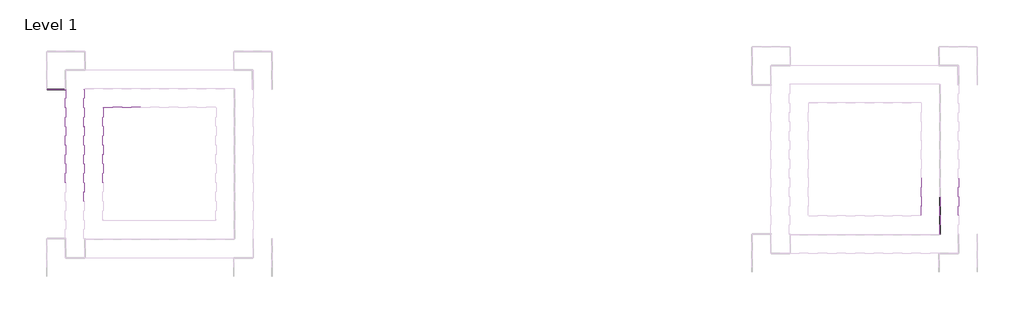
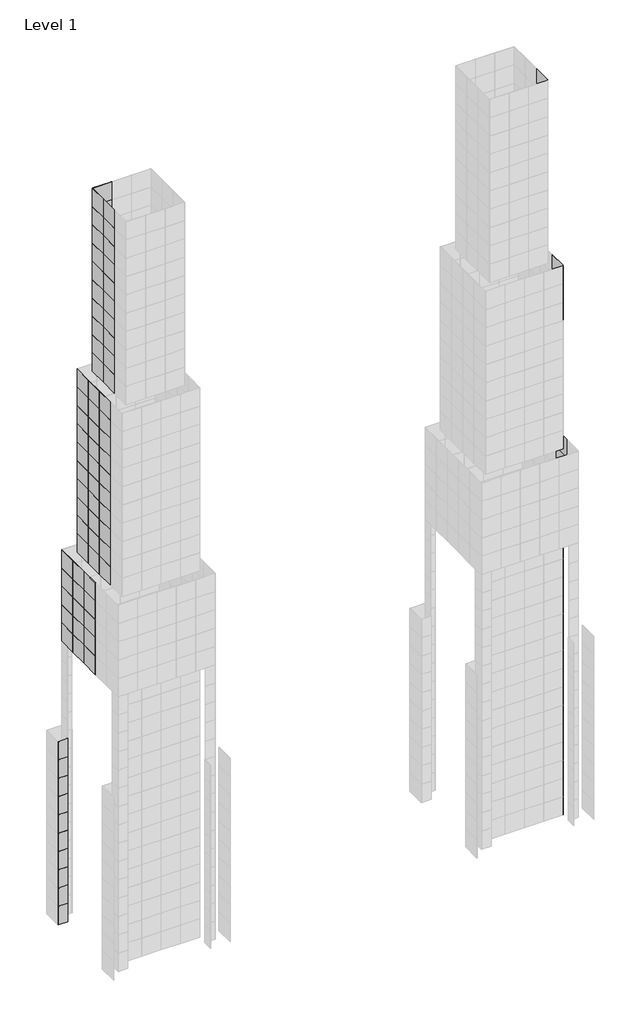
# One storey, part 7 of 15: 134 plates.
"""IFC4 building model written with IfcOpenShell, lengths in millimetres."""

from ifc_helpers import new_model, si_unit, origin, place, context, project, spatial, transform, mapped, element, save
from components import system_panel_glazed_9c75bc08, system_panel_glazed_0a0842ec, system_panel_glazed_aa64d645, system_panel_glazed_b248394d

model = new_model("IFC4")

# Units and contexts
model_context = context("Model", 3, world=origin())
ifc_project = project(units=[si_unit("LENGTHUNIT", "METRE", prefix="MILLI")], contexts=[model_context])

# Site, building, storey
site = spatial("IfcSite", under=ifc_project)
building = spatial("IfcBuilding", under=site)
storey = spatial("IfcBuildingStorey", under=building, Name="Level 1", Elevation=0.0)

# Plates
placement = place(None, origin())
system_panel_glazed_shape = system_panel_glazed_9c75bc08(model_context)
element("IfcPlate", 1, ObjectType="System Panel : Glazed", at=placement, inside=storey, context=model_context, shape_type="MappedRepresentation", body=[
    mapped(system_panel_glazed_shape, transform((-21601.4161695, 7973.9495511, 0.0), x_axis=(1.0, 0.0, 0.0), y_axis=(0.0, 1.0, 0.0), z_axis=(0.0, 0.0, 1.0))),
])
element("IfcPlate", 2, ObjectType="System Panel : Glazed", at=placement, inside=storey, context=model_context, shape_type="MappedRepresentation", body=[
    mapped(system_panel_glazed_shape, transform((-21601.4161695, 7973.9495511, 3048.0), x_axis=(1.0, 0.0, 0.0), y_axis=(0.0, 1.0, 0.0), z_axis=(0.0, 0.0, 1.0))),
])
element("IfcPlate", 3, ObjectType="System Panel : Glazed", at=placement, inside=storey, context=model_context, shape_type="MappedRepresentation", body=[
    mapped(system_panel_glazed_shape, transform((-21601.4161695, 7973.9495511, 6096.0), x_axis=(1.0, 0.0, 0.0), y_axis=(0.0, 1.0, 0.0), z_axis=(0.0, 0.0, 1.0))),
])
element("IfcPlate", 4, ObjectType="System Panel : Glazed", at=placement, inside=storey, context=model_context, shape_type="MappedRepresentation", body=[
    mapped(system_panel_glazed_shape, transform((-21601.4161695, 7973.9495511, 9144.0), x_axis=(1.0, 0.0, 0.0), y_axis=(0.0, 1.0, 0.0), z_axis=(0.0, 0.0, 1.0))),
])
element("IfcPlate", 5, ObjectType="System Panel : Glazed", at=placement, inside=storey, context=model_context, shape_type="MappedRepresentation", body=[
    mapped(system_panel_glazed_shape, transform((-21601.4161695, 7973.9495511, 12192.0), x_axis=(1.0, 0.0, 0.0), y_axis=(0.0, 1.0, 0.0), z_axis=(0.0, 0.0, 1.0))),
])
element("IfcPlate", 6, ObjectType="System Panel : Glazed", at=placement, inside=storey, context=model_context, shape_type="MappedRepresentation", body=[
    mapped(system_panel_glazed_shape, transform((-21601.4161695, 7973.9495511, 15240.0), x_axis=(1.0, 0.0, 0.0), y_axis=(0.0, 1.0, 0.0), z_axis=(0.0, 0.0, 1.0))),
])
element("IfcPlate", 7, ObjectType="System Panel : Glazed", at=placement, inside=storey, context=model_context, shape_type="MappedRepresentation", body=[
    mapped(system_panel_glazed_shape, transform((-21601.4161695, 7973.9495511, 18288.0), x_axis=(1.0, 0.0, 0.0), y_axis=(0.0, 1.0, 0.0), z_axis=(0.0, 0.0, 1.0))),
])
element("IfcPlate", 8, ObjectType="System Panel : Glazed", at=placement, inside=storey, context=model_context, shape_type="MappedRepresentation", body=[
    mapped(system_panel_glazed_shape, transform((-21601.4161695, 7973.9495511, 21336.0), x_axis=(1.0, 0.0, 0.0), y_axis=(0.0, 1.0, 0.0), z_axis=(0.0, 0.0, 1.0))),
])
element("IfcPlate", 9, ObjectType="System Panel : Glazed", at=placement, inside=storey, context=model_context, shape_type="MappedRepresentation", body=[
    mapped(system_panel_glazed_shape, transform((-21601.4161695, 7973.9495511, 24384.0), x_axis=(1.0, 0.0, 0.0), y_axis=(0.0, 1.0, 0.0), z_axis=(0.0, 0.0, 1.0))),
])
element("IfcPlate", 10, ObjectType="System Panel : Glazed", at=placement, inside=storey, context=model_context, shape_type="MappedRepresentation", body=[
    mapped(system_panel_glazed_shape, transform((-21601.4161695, 7973.9495511, 27432.0), x_axis=(1.0, 0.0, 0.0), y_axis=(0.0, 1.0, 0.0), z_axis=(0.0, 0.0, 1.0))),
])
system_panel_glazed_2_shape = system_panel_glazed_0a0842ec(model_context)
element("IfcPlate", 11, ObjectType="System Panel : Glazed", at=placement, inside=storey, context=model_context, shape_type="MappedRepresentation", body=[
    mapped(system_panel_glazed_2_shape, transform((-20839.4161695, 7973.9495511, 45720.0), x_axis=(0.0, -1.0, 0.0), y_axis=(1.0, 0.0, 0.0), z_axis=(0.0, 0.0, 1.0))),
])
element("IfcPlate", 12, ObjectType="System Panel : Glazed", at=placement, inside=storey, context=model_context, shape_type="MappedRepresentation", body=[
    mapped(system_panel_glazed_2_shape, transform((-20839.4161695, 7973.9495511, 45720.0), x_axis=(0.0, -1.0, 0.0), y_axis=(1.0, 0.0, 0.0), z_axis=(0.0, 0.0, 1.0))),
])
system_panel_glazed_3_shape = system_panel_glazed_aa64d645(model_context)
element("IfcPlate", 13, ObjectType="System Panel : Glazed", at=placement, inside=storey, context=model_context, shape_type="MappedRepresentation", body=[
    mapped(system_panel_glazed_3_shape, transform((-20839.4161695, 4925.9495511, 45720.0), x_axis=(0.0, -1.0, 0.0), y_axis=(1.0, 0.0, 0.0), z_axis=(0.0, 0.0, 1.0))),
])
element("IfcPlate", 14, ObjectType="System Panel : Glazed", at=placement, inside=storey, context=model_context, shape_type="MappedRepresentation", body=[
    mapped(system_panel_glazed_3_shape, transform((-20839.4161695, 1877.9495511, 45720.0), x_axis=(0.0, -1.0, 0.0), y_axis=(1.0, 0.0, 0.0), z_axis=(0.0, 0.0, 1.0))),
])
element("IfcPlate", 15, ObjectType="System Panel : Glazed", at=placement, inside=storey, context=model_context, shape_type="MappedRepresentation", body=[
    mapped(system_panel_glazed_3_shape, transform((-20839.4161695, 7973.9495511, 48768.0), x_axis=(0.0, -1.0, 0.0), y_axis=(1.0, 0.0, 0.0), z_axis=(0.0, 0.0, 1.0))),
])
element("IfcPlate", 16, ObjectType="System Panel : Glazed", at=placement, inside=storey, context=model_context, shape_type="MappedRepresentation", body=[
    mapped(system_panel_glazed_3_shape, transform((-20839.4161695, 4925.9495511, 48768.0), x_axis=(0.0, -1.0, 0.0), y_axis=(1.0, 0.0, 0.0), z_axis=(0.0, 0.0, 1.0))),
])
element("IfcPlate", 17, ObjectType="System Panel : Glazed", at=placement, inside=storey, context=model_context, shape_type="MappedRepresentation", body=[
    mapped(system_panel_glazed_3_shape, transform((-20839.4161695, 1877.9495511, 48768.0), x_axis=(0.0, -1.0, 0.0), y_axis=(1.0, 0.0, 0.0), z_axis=(0.0, 0.0, 1.0))),
])
element("IfcPlate", 18, ObjectType="System Panel : Glazed", at=placement, inside=storey, context=model_context, shape_type="MappedRepresentation", body=[
    mapped(system_panel_glazed_3_shape, transform((-20839.4161695, 7973.9495511, 51816.0), x_axis=(0.0, -1.0, 0.0), y_axis=(1.0, 0.0, 0.0), z_axis=(0.0, 0.0, 1.0))),
])
element("IfcPlate", 19, ObjectType="System Panel : Glazed", at=placement, inside=storey, context=model_context, shape_type="MappedRepresentation", body=[
    mapped(system_panel_glazed_3_shape, transform((-20839.4161695, 4925.9495511, 51816.0), x_axis=(0.0, -1.0, 0.0), y_axis=(1.0, 0.0, 0.0), z_axis=(0.0, 0.0, 1.0))),
])
element("IfcPlate", 20, ObjectType="System Panel : Glazed", at=placement, inside=storey, context=model_context, shape_type="MappedRepresentation", body=[
    mapped(system_panel_glazed_3_shape, transform((-20839.4161695, 1877.9495511, 51816.0), x_axis=(0.0, -1.0, 0.0), y_axis=(1.0, 0.0, 0.0), z_axis=(0.0, 0.0, 1.0))),
])
element("IfcPlate", 21, ObjectType="System Panel : Glazed", at=placement, inside=storey, context=model_context, shape_type="MappedRepresentation", body=[
    mapped(system_panel_glazed_3_shape, transform((-20839.4161695, 7973.9495511, 54864.0), x_axis=(0.0, -1.0, 0.0), y_axis=(1.0, 0.0, 0.0), z_axis=(0.0, 0.0, 1.0))),
])
element("IfcPlate", 22, ObjectType="System Panel : Glazed", at=placement, inside=storey, context=model_context, shape_type="MappedRepresentation", body=[
    mapped(system_panel_glazed_3_shape, transform((-20839.4161695, 4925.9495511, 54864.0), x_axis=(0.0, -1.0, 0.0), y_axis=(1.0, 0.0, 0.0), z_axis=(0.0, 0.0, 1.0))),
])
element("IfcPlate", 23, ObjectType="System Panel : Glazed", at=placement, inside=storey, context=model_context, shape_type="MappedRepresentation", body=[
    mapped(system_panel_glazed_3_shape, transform((-20839.4161695, 1877.9495511, 54864.0), x_axis=(0.0, -1.0, 0.0), y_axis=(1.0, 0.0, 0.0), z_axis=(0.0, 0.0, 1.0))),
])
element("IfcPlate", 24, ObjectType="System Panel : Glazed", at=placement, inside=storey, context=model_context, shape_type="MappedRepresentation", body=[
    mapped(system_panel_glazed_3_shape, transform((-20839.4161695, 7973.9495511, 57912.0), x_axis=(0.0, -1.0, 0.0), y_axis=(1.0, 0.0, 0.0), z_axis=(0.0, 0.0, 1.0))),
])
element("IfcPlate", 25, ObjectType="System Panel : Glazed", at=placement, inside=storey, context=model_context, shape_type="MappedRepresentation", body=[
    mapped(system_panel_glazed_3_shape, transform((-20839.4161695, 4925.9495511, 57912.0), x_axis=(0.0, -1.0, 0.0), y_axis=(1.0, 0.0, 0.0), z_axis=(0.0, 0.0, 1.0))),
])
element("IfcPlate", 26, ObjectType="System Panel : Glazed", at=placement, inside=storey, context=model_context, shape_type="MappedRepresentation", body=[
    mapped(system_panel_glazed_3_shape, transform((-20839.4161695, 1877.9495511, 57912.0), x_axis=(0.0, -1.0, 0.0), y_axis=(1.0, 0.0, 0.0), z_axis=(0.0, 0.0, 1.0))),
])
element("IfcPlate", 27, ObjectType="System Panel : Glazed", at=placement, inside=storey, context=model_context, shape_type="MappedRepresentation", body=[
    mapped(system_panel_glazed_3_shape, transform((-19315.4161695, 6449.9495511, 60960.0), x_axis=(0.0, -1.0, 0.0), y_axis=(1.0, 0.0, 0.0), z_axis=(0.0, 0.0, 1.0))),
])
element("IfcPlate", 28, ObjectType="System Panel : Glazed", at=placement, inside=storey, context=model_context, shape_type="MappedRepresentation", body=[
    mapped(system_panel_glazed_3_shape, transform((-19315.4161695, 3401.9495511, 60960.0), x_axis=(0.0, -1.0, 0.0), y_axis=(1.0, 0.0, 0.0), z_axis=(0.0, 0.0, 1.0))),
])
element("IfcPlate", 29, ObjectType="System Panel : Glazed", at=placement, inside=storey, context=model_context, shape_type="MappedRepresentation", body=[
    mapped(system_panel_glazed_3_shape, transform((-19315.4161695, 353.9495511, 60960.0), x_axis=(0.0, -1.0, 0.0), y_axis=(1.0, 0.0, 0.0), z_axis=(0.0, 0.0, 1.0))),
])
element("IfcPlate", 30, ObjectType="System Panel : Glazed", at=placement, inside=storey, context=model_context, shape_type="MappedRepresentation", body=[
    mapped(system_panel_glazed_3_shape, transform((-19315.4161695, 6449.9495511, 64008.0), x_axis=(0.0, -1.0, 0.0), y_axis=(1.0, 0.0, 0.0), z_axis=(0.0, 0.0, 1.0))),
])
element("IfcPlate", 31, ObjectType="System Panel : Glazed", at=placement, inside=storey, context=model_context, shape_type="MappedRepresentation", body=[
    mapped(system_panel_glazed_3_shape, transform((-19315.4161695, 3401.9495511, 64008.0), x_axis=(0.0, -1.0, 0.0), y_axis=(1.0, 0.0, 0.0), z_axis=(0.0, 0.0, 1.0))),
])
element("IfcPlate", 32, ObjectType="System Panel : Glazed", at=placement, inside=storey, context=model_context, shape_type="MappedRepresentation", body=[
    mapped(system_panel_glazed_3_shape, transform((-19315.4161695, 353.9495511, 64008.0), x_axis=(0.0, -1.0, 0.0), y_axis=(1.0, 0.0, 0.0), z_axis=(0.0, 0.0, 1.0))),
])
element("IfcPlate", 33, ObjectType="System Panel : Glazed", at=placement, inside=storey, context=model_context, shape_type="MappedRepresentation", body=[
    mapped(system_panel_glazed_3_shape, transform((-19315.4161695, 6449.9495511, 67056.0), x_axis=(0.0, -1.0, 0.0), y_axis=(1.0, 0.0, 0.0), z_axis=(0.0, 0.0, 1.0))),
])
element("IfcPlate", 34, ObjectType="System Panel : Glazed", at=placement, inside=storey, context=model_context, shape_type="MappedRepresentation", body=[
    mapped(system_panel_glazed_3_shape, transform((-19315.4161695, 3401.9495511, 67056.0), x_axis=(0.0, -1.0, 0.0), y_axis=(1.0, 0.0, 0.0), z_axis=(0.0, 0.0, 1.0))),
])
element("IfcPlate", 35, ObjectType="System Panel : Glazed", at=placement, inside=storey, context=model_context, shape_type="MappedRepresentation", body=[
    mapped(system_panel_glazed_3_shape, transform((-19315.4161695, 353.9495511, 67056.0), x_axis=(0.0, -1.0, 0.0), y_axis=(1.0, 0.0, 0.0), z_axis=(0.0, 0.0, 1.0))),
])
element("IfcPlate", 36, ObjectType="System Panel : Glazed", at=placement, inside=storey, context=model_context, shape_type="MappedRepresentation", body=[
    mapped(system_panel_glazed_3_shape, transform((-19315.4161695, 6449.9495511, 70104.0), x_axis=(0.0, -1.0, 0.0), y_axis=(1.0, 0.0, 0.0), z_axis=(0.0, 0.0, 1.0))),
])
element("IfcPlate", 37, ObjectType="System Panel : Glazed", at=placement, inside=storey, context=model_context, shape_type="MappedRepresentation", body=[
    mapped(system_panel_glazed_3_shape, transform((-19315.4161695, 3401.9495511, 70104.0), x_axis=(0.0, -1.0, 0.0), y_axis=(1.0, 0.0, 0.0), z_axis=(0.0, 0.0, 1.0))),
])
element("IfcPlate", 38, ObjectType="System Panel : Glazed", at=placement, inside=storey, context=model_context, shape_type="MappedRepresentation", body=[
    mapped(system_panel_glazed_3_shape, transform((-19315.4161695, 353.9495511, 70104.0), x_axis=(0.0, -1.0, 0.0), y_axis=(1.0, 0.0, 0.0), z_axis=(0.0, 0.0, 1.0))),
])
element("IfcPlate", 39, ObjectType="System Panel : Glazed", at=placement, inside=storey, context=model_context, shape_type="MappedRepresentation", body=[
    mapped(system_panel_glazed_3_shape, transform((-19315.4161695, 6449.9495511, 73152.0), x_axis=(0.0, -1.0, 0.0), y_axis=(1.0, 0.0, 0.0), z_axis=(0.0, 0.0, 1.0))),
])
element("IfcPlate", 40, ObjectType="System Panel : Glazed", at=placement, inside=storey, context=model_context, shape_type="MappedRepresentation", body=[
    mapped(system_panel_glazed_3_shape, transform((-19315.4161695, 3401.9495511, 73152.0), x_axis=(0.0, -1.0, 0.0), y_axis=(1.0, 0.0, 0.0), z_axis=(0.0, 0.0, 1.0))),
])
element("IfcPlate", 41, ObjectType="System Panel : Glazed", at=placement, inside=storey, context=model_context, shape_type="MappedRepresentation", body=[
    mapped(system_panel_glazed_3_shape, transform((-19315.4161695, 353.9495511, 73152.0), x_axis=(0.0, -1.0, 0.0), y_axis=(1.0, 0.0, 0.0), z_axis=(0.0, 0.0, 1.0))),
])
element("IfcPlate", 42, ObjectType="System Panel : Glazed", at=placement, inside=storey, context=model_context, shape_type="MappedRepresentation", body=[
    mapped(system_panel_glazed_3_shape, transform((-19315.4161695, 6449.9495511, 76200.0), x_axis=(0.0, -1.0, 0.0), y_axis=(1.0, 0.0, 0.0), z_axis=(0.0, 0.0, 1.0))),
])
element("IfcPlate", 43, ObjectType="System Panel : Glazed", at=placement, inside=storey, context=model_context, shape_type="MappedRepresentation", body=[
    mapped(system_panel_glazed_3_shape, transform((-19315.4161695, 3401.9495511, 76200.0), x_axis=(0.0, -1.0, 0.0), y_axis=(1.0, 0.0, 0.0), z_axis=(0.0, 0.0, 1.0))),
])
element("IfcPlate", 44, ObjectType="System Panel : Glazed", at=placement, inside=storey, context=model_context, shape_type="MappedRepresentation", body=[
    mapped(system_panel_glazed_3_shape, transform((-19315.4161695, 353.9495511, 76200.0), x_axis=(0.0, -1.0, 0.0), y_axis=(1.0, 0.0, 0.0), z_axis=(0.0, 0.0, 1.0))),
])
element("IfcPlate", 45, ObjectType="System Panel : Glazed", at=placement, inside=storey, context=model_context, shape_type="MappedRepresentation", body=[
    mapped(system_panel_glazed_3_shape, transform((-19315.4161695, 6449.9495511, 79248.0), x_axis=(0.0, -1.0, 0.0), y_axis=(1.0, 0.0, 0.0), z_axis=(0.0, 0.0, 1.0))),
])
element("IfcPlate", 46, ObjectType="System Panel : Glazed", at=placement, inside=storey, context=model_context, shape_type="MappedRepresentation", body=[
    mapped(system_panel_glazed_3_shape, transform((-19315.4161695, 3401.9495511, 79248.0), x_axis=(0.0, -1.0, 0.0), y_axis=(1.0, 0.0, 0.0), z_axis=(0.0, 0.0, 1.0))),
])
element("IfcPlate", 47, ObjectType="System Panel : Glazed", at=placement, inside=storey, context=model_context, shape_type="MappedRepresentation", body=[
    mapped(system_panel_glazed_3_shape, transform((-19315.4161695, 353.9495511, 79248.0), x_axis=(0.0, -1.0, 0.0), y_axis=(1.0, 0.0, 0.0), z_axis=(0.0, 0.0, 1.0))),
])
element("IfcPlate", 48, ObjectType="System Panel : Glazed", at=placement, inside=storey, context=model_context, shape_type="MappedRepresentation", body=[
    mapped(system_panel_glazed_3_shape, transform((-19315.4161695, 6449.9495511, 82296.0), x_axis=(0.0, -1.0, 0.0), y_axis=(1.0, 0.0, 0.0), z_axis=(0.0, 0.0, 1.0))),
])
element("IfcPlate", 49, ObjectType="System Panel : Glazed", at=placement, inside=storey, context=model_context, shape_type="MappedRepresentation", body=[
    mapped(system_panel_glazed_3_shape, transform((-19315.4161695, 3401.9495511, 82296.0), x_axis=(0.0, -1.0, 0.0), y_axis=(1.0, 0.0, 0.0), z_axis=(0.0, 0.0, 1.0))),
])
element("IfcPlate", 50, ObjectType="System Panel : Glazed", at=placement, inside=storey, context=model_context, shape_type="MappedRepresentation", body=[
    mapped(system_panel_glazed_3_shape, transform((-19315.4161695, 353.9495511, 82296.0), x_axis=(0.0, -1.0, 0.0), y_axis=(1.0, 0.0, 0.0), z_axis=(0.0, 0.0, 1.0))),
])
element("IfcPlate", 51, ObjectType="System Panel : Glazed", at=placement, inside=storey, context=model_context, shape_type="MappedRepresentation", body=[
    mapped(system_panel_glazed_3_shape, transform((-19315.4161695, 6449.9495511, 85344.0), x_axis=(0.0, -1.0, 0.0), y_axis=(1.0, 0.0, 0.0), z_axis=(0.0, 0.0, 1.0))),
])
element("IfcPlate", 52, ObjectType="System Panel : Glazed", at=placement, inside=storey, context=model_context, shape_type="MappedRepresentation", body=[
    mapped(system_panel_glazed_3_shape, transform((-19315.4161695, 3401.9495511, 85344.0), x_axis=(0.0, -1.0, 0.0), y_axis=(1.0, 0.0, 0.0), z_axis=(0.0, 0.0, 1.0))),
])
element("IfcPlate", 53, ObjectType="System Panel : Glazed", at=placement, inside=storey, context=model_context, shape_type="MappedRepresentation", body=[
    mapped(system_panel_glazed_3_shape, transform((-19315.4161695, 353.9495511, 85344.0), x_axis=(0.0, -1.0, 0.0), y_axis=(1.0, 0.0, 0.0), z_axis=(0.0, 0.0, 1.0))),
])
element("IfcPlate", 54, ObjectType="System Panel : Glazed", at=placement, inside=storey, context=model_context, shape_type="MappedRepresentation", body=[
    mapped(system_panel_glazed_3_shape, transform((-19315.4161695, 6449.9495511, 88392.0), x_axis=(0.0, -1.0, 0.0), y_axis=(1.0, 0.0, 0.0), z_axis=(0.0, 0.0, 1.0))),
])
element("IfcPlate", 55, ObjectType="System Panel : Glazed", at=placement, inside=storey, context=model_context, shape_type="MappedRepresentation", body=[
    mapped(system_panel_glazed_3_shape, transform((-19315.4161695, 3401.9495511, 88392.0), x_axis=(0.0, -1.0, 0.0), y_axis=(1.0, 0.0, 0.0), z_axis=(0.0, 0.0, 1.0))),
])
element("IfcPlate", 56, ObjectType="System Panel : Glazed", at=placement, inside=storey, context=model_context, shape_type="MappedRepresentation", body=[
    mapped(system_panel_glazed_3_shape, transform((-19315.4161695, 353.9495511, 88392.0), x_axis=(0.0, -1.0, 0.0), y_axis=(1.0, 0.0, 0.0), z_axis=(0.0, 0.0, 1.0))),
])
element("IfcPlate", 57, ObjectType="System Panel : Glazed", at=placement, inside=storey, context=model_context, shape_type="MappedRepresentation", body=[
    mapped(system_panel_glazed_3_shape, transform((-17791.4161695, 7973.9495511, 60960.0), x_axis=(-1.0, 0.0, 0.0), y_axis=(0.0, -1.0, 0.0), z_axis=(0.0, 0.0, 1.0))),
])
element("IfcPlate", 58, ObjectType="System Panel : Glazed", at=placement, inside=storey, context=model_context, shape_type="MappedRepresentation", body=[
    mapped(system_panel_glazed_3_shape, transform((-16261.8488996, 6449.9495511, 91440.0), x_axis=(-1.0, 0.0, 0.0), y_axis=(0.0, -1.0, 0.0), z_axis=(0.0, 0.0, 1.0))),
])
element("IfcPlate", 59, ObjectType="System Panel : Glazed", at=placement, inside=storey, context=model_context, shape_type="MappedRepresentation", body=[
    mapped(system_panel_glazed_3_shape, transform((-16261.8488996, 6449.9495511, 94488.0), x_axis=(-1.0, 0.0, 0.0), y_axis=(0.0, -1.0, 0.0), z_axis=(0.0, 0.0, 1.0))),
])
element("IfcPlate", 60, ObjectType="System Panel : Glazed", at=placement, inside=storey, context=model_context, shape_type="MappedRepresentation", body=[
    mapped(system_panel_glazed_3_shape, transform((-16261.8488996, 6449.9495511, 97536.0), x_axis=(-1.0, 0.0, 0.0), y_axis=(0.0, -1.0, 0.0), z_axis=(0.0, 0.0, 1.0))),
])
element("IfcPlate", 61, ObjectType="System Panel : Glazed", at=placement, inside=storey, context=model_context, shape_type="MappedRepresentation", body=[
    mapped(system_panel_glazed_3_shape, transform((-16261.8488996, 6449.9495511, 100584.0), x_axis=(-1.0, 0.0, 0.0), y_axis=(0.0, -1.0, 0.0), z_axis=(0.0, 0.0, 1.0))),
])
element("IfcPlate", 62, ObjectType="System Panel : Glazed", at=placement, inside=storey, context=model_context, shape_type="MappedRepresentation", body=[
    mapped(system_panel_glazed_3_shape, transform((-16261.8488996, 6449.9495511, 103632.0), x_axis=(-1.0, 0.0, 0.0), y_axis=(0.0, -1.0, 0.0), z_axis=(0.0, 0.0, 1.0))),
])
element("IfcPlate", 63, ObjectType="System Panel : Glazed", at=placement, inside=storey, context=model_context, shape_type="MappedRepresentation", body=[
    mapped(system_panel_glazed_3_shape, transform((-16261.8488996, 6449.9495511, 106680.0), x_axis=(-1.0, 0.0, 0.0), y_axis=(0.0, -1.0, 0.0), z_axis=(0.0, 0.0, 1.0))),
])
element("IfcPlate", 64, ObjectType="System Panel : Glazed", at=placement, inside=storey, context=model_context, shape_type="MappedRepresentation", body=[
    mapped(system_panel_glazed_3_shape, transform((-16261.8488996, 6449.9495511, 109728.0), x_axis=(-1.0, 0.0, 0.0), y_axis=(0.0, -1.0, 0.0), z_axis=(0.0, 0.0, 1.0))),
])
element("IfcPlate", 65, ObjectType="System Panel : Glazed", at=placement, inside=storey, context=model_context, shape_type="MappedRepresentation", body=[
    mapped(system_panel_glazed_3_shape, transform((-16261.8488996, 6449.9495511, 112776.0), x_axis=(-1.0, 0.0, 0.0), y_axis=(0.0, -1.0, 0.0), z_axis=(0.0, 0.0, 1.0))),
])
element("IfcPlate", 66, ObjectType="System Panel : Glazed", at=placement, inside=storey, context=model_context, shape_type="MappedRepresentation", body=[
    mapped(system_panel_glazed_3_shape, transform((-16261.8488996, 6449.9495511, 115824.0), x_axis=(-1.0, 0.0, 0.0), y_axis=(0.0, -1.0, 0.0), z_axis=(0.0, 0.0, 1.0))),
])
element("IfcPlate", 67, ObjectType="System Panel : Glazed", at=placement, inside=storey, context=model_context, shape_type="MappedRepresentation", body=[
    mapped(system_panel_glazed_3_shape, transform((-16261.8488996, 6449.9495511, 118872.0), x_axis=(-1.0, 0.0, 0.0), y_axis=(0.0, -1.0, 0.0), z_axis=(0.0, 0.0, 1.0))),
])
element("IfcPlate", 68, ObjectType="System Panel : Glazed", at=placement, inside=storey, context=model_context, shape_type="MappedRepresentation", body=[
    mapped(system_panel_glazed_3_shape, transform((-17785.8488996, 4925.9495511, 91440.0), x_axis=(0.0, -1.0, 0.0), y_axis=(1.0, 0.0, 0.0), z_axis=(0.0, 0.0, 1.0))),
])
element("IfcPlate", 69, ObjectType="System Panel : Glazed", at=placement, inside=storey, context=model_context, shape_type="MappedRepresentation", body=[
    mapped(system_panel_glazed_3_shape, transform((-17785.8488996, 1877.9495511, 91440.0), x_axis=(0.0, -1.0, 0.0), y_axis=(1.0, 0.0, 0.0), z_axis=(0.0, 0.0, 1.0))),
])
element("IfcPlate", 70, ObjectType="System Panel : Glazed", at=placement, inside=storey, context=model_context, shape_type="MappedRepresentation", body=[
    mapped(system_panel_glazed_3_shape, transform((-17785.8488996, 4925.9495511, 94488.0), x_axis=(0.0, -1.0, 0.0), y_axis=(1.0, 0.0, 0.0), z_axis=(0.0, 0.0, 1.0))),
])
element("IfcPlate", 71, ObjectType="System Panel : Glazed", at=placement, inside=storey, context=model_context, shape_type="MappedRepresentation", body=[
    mapped(system_panel_glazed_3_shape, transform((-17785.8488996, 1877.9495511, 94488.0), x_axis=(0.0, -1.0, 0.0), y_axis=(1.0, 0.0, 0.0), z_axis=(0.0, 0.0, 1.0))),
])
element("IfcPlate", 72, ObjectType="System Panel : Glazed", at=placement, inside=storey, context=model_context, shape_type="MappedRepresentation", body=[
    mapped(system_panel_glazed_3_shape, transform((-17785.8488996, 4925.9495511, 97536.0), x_axis=(0.0, -1.0, 0.0), y_axis=(1.0, 0.0, 0.0), z_axis=(0.0, 0.0, 1.0))),
])
element("IfcPlate", 73, ObjectType="System Panel : Glazed", at=placement, inside=storey, context=model_context, shape_type="MappedRepresentation", body=[
    mapped(system_panel_glazed_3_shape, transform((-17785.8488996, 1877.9495511, 97536.0), x_axis=(0.0, -1.0, 0.0), y_axis=(1.0, 0.0, 0.0), z_axis=(0.0, 0.0, 1.0))),
])
element("IfcPlate", 74, ObjectType="System Panel : Glazed", at=placement, inside=storey, context=model_context, shape_type="MappedRepresentation", body=[
    mapped(system_panel_glazed_3_shape, transform((-17785.8488996, 4925.9495511, 100584.0), x_axis=(0.0, -1.0, 0.0), y_axis=(1.0, 0.0, 0.0), z_axis=(0.0, 0.0, 1.0))),
])
element("IfcPlate", 75, ObjectType="System Panel : Glazed", at=placement, inside=storey, context=model_context, shape_type="MappedRepresentation", body=[
    mapped(system_panel_glazed_3_shape, transform((-17785.8488996, 1877.9495511, 100584.0), x_axis=(0.0, -1.0, 0.0), y_axis=(1.0, 0.0, 0.0), z_axis=(0.0, 0.0, 1.0))),
])
element("IfcPlate", 76, ObjectType="System Panel : Glazed", at=placement, inside=storey, context=model_context, shape_type="MappedRepresentation", body=[
    mapped(system_panel_glazed_3_shape, transform((-17785.8488996, 4925.9495511, 103632.0), x_axis=(0.0, -1.0, 0.0), y_axis=(1.0, 0.0, 0.0), z_axis=(0.0, 0.0, 1.0))),
])
element("IfcPlate", 77, ObjectType="System Panel : Glazed", at=placement, inside=storey, context=model_context, shape_type="MappedRepresentation", body=[
    mapped(system_panel_glazed_3_shape, transform((-17785.8488996, 1877.9495511, 103632.0), x_axis=(0.0, -1.0, 0.0), y_axis=(1.0, 0.0, 0.0), z_axis=(0.0, 0.0, 1.0))),
])
element("IfcPlate", 78, ObjectType="System Panel : Glazed", at=placement, inside=storey, context=model_context, shape_type="MappedRepresentation", body=[
    mapped(system_panel_glazed_3_shape, transform((-17785.8488996, 4925.9495511, 106680.0), x_axis=(0.0, -1.0, 0.0), y_axis=(1.0, 0.0, 0.0), z_axis=(0.0, 0.0, 1.0))),
])
element("IfcPlate", 79, ObjectType="System Panel : Glazed", at=placement, inside=storey, context=model_context, shape_type="MappedRepresentation", body=[
    mapped(system_panel_glazed_3_shape, transform((-17785.8488996, 1877.9495511, 106680.0), x_axis=(0.0, -1.0, 0.0), y_axis=(1.0, 0.0, 0.0), z_axis=(0.0, 0.0, 1.0))),
])
element("IfcPlate", 80, ObjectType="System Panel : Glazed", at=placement, inside=storey, context=model_context, shape_type="MappedRepresentation", body=[
    mapped(system_panel_glazed_3_shape, transform((-17785.8488996, 4925.9495511, 109728.0), x_axis=(0.0, -1.0, 0.0), y_axis=(1.0, 0.0, 0.0), z_axis=(0.0, 0.0, 1.0))),
])
element("IfcPlate", 81, ObjectType="System Panel : Glazed", at=placement, inside=storey, context=model_context, shape_type="MappedRepresentation", body=[
    mapped(system_panel_glazed_3_shape, transform((-17785.8488996, 1877.9495511, 109728.0), x_axis=(0.0, -1.0, 0.0), y_axis=(1.0, 0.0, 0.0), z_axis=(0.0, 0.0, 1.0))),
])
element("IfcPlate", 82, ObjectType="System Panel : Glazed", at=placement, inside=storey, context=model_context, shape_type="MappedRepresentation", body=[
    mapped(system_panel_glazed_3_shape, transform((-17785.8488996, 4925.9495511, 112776.0), x_axis=(0.0, -1.0, 0.0), y_axis=(1.0, 0.0, 0.0), z_axis=(0.0, 0.0, 1.0))),
])
element("IfcPlate", 83, ObjectType="System Panel : Glazed", at=placement, inside=storey, context=model_context, shape_type="MappedRepresentation", body=[
    mapped(system_panel_glazed_3_shape, transform((-17785.8488996, 1877.9495511, 112776.0), x_axis=(0.0, -1.0, 0.0), y_axis=(1.0, 0.0, 0.0), z_axis=(0.0, 0.0, 1.0))),
])
element("IfcPlate", 84, ObjectType="System Panel : Glazed", at=placement, inside=storey, context=model_context, shape_type="MappedRepresentation", body=[
    mapped(system_panel_glazed_3_shape, transform((-17785.8488996, 4925.9495511, 115824.0), x_axis=(0.0, -1.0, 0.0), y_axis=(1.0, 0.0, 0.0), z_axis=(0.0, 0.0, 1.0))),
])
element("IfcPlate", 85, ObjectType="System Panel : Glazed", at=placement, inside=storey, context=model_context, shape_type="MappedRepresentation", body=[
    mapped(system_panel_glazed_3_shape, transform((-17785.8488996, 1877.9495511, 115824.0), x_axis=(0.0, -1.0, 0.0), y_axis=(1.0, 0.0, 0.0), z_axis=(0.0, 0.0, 1.0))),
])
element("IfcPlate", 86, ObjectType="System Panel : Glazed", at=placement, inside=storey, context=model_context, shape_type="MappedRepresentation", body=[
    mapped(system_panel_glazed_3_shape, transform((-17785.8488996, 4925.9495511, 118872.0), x_axis=(0.0, -1.0, 0.0), y_axis=(1.0, 0.0, 0.0), z_axis=(0.0, 0.0, 1.0))),
])
element("IfcPlate", 87, ObjectType="System Panel : Glazed", at=placement, inside=storey, context=model_context, shape_type="MappedRepresentation", body=[
    mapped(system_panel_glazed_3_shape, transform((-17785.8488996, 1877.9495511, 118872.0), x_axis=(0.0, -1.0, 0.0), y_axis=(1.0, 0.0, 0.0), z_axis=(0.0, 0.0, 1.0))),
])
element("IfcPlate", 88, ObjectType="System Panel : Glazed", at=placement, inside=storey, context=model_context, shape_type="MappedRepresentation", body=[
    mapped(system_panel_glazed_3_shape, transform((-20839.4161695, 4925.9495511, 45720.0), x_axis=(0.0, -1.0, 0.0), y_axis=(1.0, 0.0, 0.0), z_axis=(0.0, 0.0, 1.0))),
])
element("IfcPlate", 89, ObjectType="System Panel : Glazed", at=placement, inside=storey, context=model_context, shape_type="MappedRepresentation", body=[
    mapped(system_panel_glazed_3_shape, transform((-20839.4161695, 1877.9495511, 45720.0), x_axis=(0.0, -1.0, 0.0), y_axis=(1.0, 0.0, 0.0), z_axis=(0.0, 0.0, 1.0))),
])
element("IfcPlate", 90, ObjectType="System Panel : Glazed", at=placement, inside=storey, context=model_context, shape_type="MappedRepresentation", body=[
    mapped(system_panel_glazed_3_shape, transform((-20839.4161695, 7973.9495511, 48768.0), x_axis=(0.0, -1.0, 0.0), y_axis=(1.0, 0.0, 0.0), z_axis=(0.0, 0.0, 1.0))),
])
element("IfcPlate", 91, ObjectType="System Panel : Glazed", at=placement, inside=storey, context=model_context, shape_type="MappedRepresentation", body=[
    mapped(system_panel_glazed_3_shape, transform((-20839.4161695, 4925.9495511, 48768.0), x_axis=(0.0, -1.0, 0.0), y_axis=(1.0, 0.0, 0.0), z_axis=(0.0, 0.0, 1.0))),
])
element("IfcPlate", 92, ObjectType="System Panel : Glazed", at=placement, inside=storey, context=model_context, shape_type="MappedRepresentation", body=[
    mapped(system_panel_glazed_3_shape, transform((-20839.4161695, 1877.9495511, 48768.0), x_axis=(0.0, -1.0, 0.0), y_axis=(1.0, 0.0, 0.0), z_axis=(0.0, 0.0, 1.0))),
])
element("IfcPlate", 93, ObjectType="System Panel : Glazed", at=placement, inside=storey, context=model_context, shape_type="MappedRepresentation", body=[
    mapped(system_panel_glazed_3_shape, transform((-20839.4161695, 7973.9495511, 51816.0), x_axis=(0.0, -1.0, 0.0), y_axis=(1.0, 0.0, 0.0), z_axis=(0.0, 0.0, 1.0))),
])
element("IfcPlate", 94, ObjectType="System Panel : Glazed", at=placement, inside=storey, context=model_context, shape_type="MappedRepresentation", body=[
    mapped(system_panel_glazed_3_shape, transform((-20839.4161695, 4925.9495511, 51816.0), x_axis=(0.0, -1.0, 0.0), y_axis=(1.0, 0.0, 0.0), z_axis=(0.0, 0.0, 1.0))),
])
element("IfcPlate", 95, ObjectType="System Panel : Glazed", at=placement, inside=storey, context=model_context, shape_type="MappedRepresentation", body=[
    mapped(system_panel_glazed_3_shape, transform((-20839.4161695, 1877.9495511, 51816.0), x_axis=(0.0, -1.0, 0.0), y_axis=(1.0, 0.0, 0.0), z_axis=(0.0, 0.0, 1.0))),
])
element("IfcPlate", 96, ObjectType="System Panel : Glazed", at=placement, inside=storey, context=model_context, shape_type="MappedRepresentation", body=[
    mapped(system_panel_glazed_3_shape, transform((-20839.4161695, 7973.9495511, 54864.0), x_axis=(0.0, -1.0, 0.0), y_axis=(1.0, 0.0, 0.0), z_axis=(0.0, 0.0, 1.0))),
])
element("IfcPlate", 97, ObjectType="System Panel : Glazed", at=placement, inside=storey, context=model_context, shape_type="MappedRepresentation", body=[
    mapped(system_panel_glazed_3_shape, transform((-20839.4161695, 4925.9495511, 54864.0), x_axis=(0.0, -1.0, 0.0), y_axis=(1.0, 0.0, 0.0), z_axis=(0.0, 0.0, 1.0))),
])
element("IfcPlate", 98, ObjectType="System Panel : Glazed", at=placement, inside=storey, context=model_context, shape_type="MappedRepresentation", body=[
    mapped(system_panel_glazed_3_shape, transform((-20839.4161695, 1877.9495511, 54864.0), x_axis=(0.0, -1.0, 0.0), y_axis=(1.0, 0.0, 0.0), z_axis=(0.0, 0.0, 1.0))),
])
element("IfcPlate", 99, ObjectType="System Panel : Glazed", at=placement, inside=storey, context=model_context, shape_type="MappedRepresentation", body=[
    mapped(system_panel_glazed_3_shape, transform((-20839.4161695, 7973.9495511, 57912.0), x_axis=(0.0, -1.0, 0.0), y_axis=(1.0, 0.0, 0.0), z_axis=(0.0, 0.0, 1.0))),
])
element("IfcPlate", 100, ObjectType="System Panel : Glazed", at=placement, inside=storey, context=model_context, shape_type="MappedRepresentation", body=[
    mapped(system_panel_glazed_3_shape, transform((-20839.4161695, 4925.9495511, 57912.0), x_axis=(0.0, -1.0, 0.0), y_axis=(1.0, 0.0, 0.0), z_axis=(0.0, 0.0, 1.0))),
])
element("IfcPlate", 101, ObjectType="System Panel : Glazed", at=placement, inside=storey, context=model_context, shape_type="MappedRepresentation", body=[
    mapped(system_panel_glazed_3_shape, transform((-20839.4161695, 1877.9495511, 57912.0), x_axis=(0.0, -1.0, 0.0), y_axis=(1.0, 0.0, 0.0), z_axis=(0.0, 0.0, 1.0))),
])
element("IfcPlate", 102, ObjectType="System Panel : Glazed", at=placement, inside=storey, context=model_context, shape_type="MappedRepresentation", body=[
    mapped(system_panel_glazed_3_shape, transform((51834.2903978, -792.9095598, 45720.0), x_axis=(0.0, 1.0, 0.0), y_axis=(-1.0, 0.0, 0.0), z_axis=(0.0, 0.0, 1.0))),
])
element("IfcPlate", 103, ObjectType="System Panel : Glazed", at=placement, inside=storey, context=model_context, shape_type="MappedRepresentation", body=[
    mapped(system_panel_glazed_3_shape, transform((51834.2903978, -792.9095598, 48768.0), x_axis=(0.0, 1.0, 0.0), y_axis=(-1.0, 0.0, 0.0), z_axis=(0.0, 0.0, 1.0))),
])
element("IfcPlate", 104, ObjectType="System Panel : Glazed", at=placement, inside=storey, context=model_context, shape_type="MappedRepresentation", body=[
    mapped(system_panel_glazed_3_shape, transform((51834.2903978, -792.9095598, 51816.0), x_axis=(0.0, 1.0, 0.0), y_axis=(-1.0, 0.0, 0.0), z_axis=(0.0, 0.0, 1.0))),
])
element("IfcPlate", 105, ObjectType="System Panel : Glazed", at=placement, inside=storey, context=model_context, shape_type="MappedRepresentation", body=[
    mapped(system_panel_glazed_3_shape, transform((51834.2903978, -792.9095598, 54864.0), x_axis=(0.0, 1.0, 0.0), y_axis=(-1.0, 0.0, 0.0), z_axis=(0.0, 0.0, 1.0))),
])
element("IfcPlate", 106, ObjectType="System Panel : Glazed", at=placement, inside=storey, context=model_context, shape_type="MappedRepresentation", body=[
    mapped(system_panel_glazed_3_shape, transform((51834.2903978, -792.9095598, 57912.0), x_axis=(0.0, 1.0, 0.0), y_axis=(-1.0, 0.0, 0.0), z_axis=(0.0, 0.0, 1.0))),
])
element("IfcPlate", 107, ObjectType="System Panel : Glazed", at=placement, inside=storey, context=model_context, shape_type="MappedRepresentation", body=[
    mapped(system_panel_glazed_3_shape, transform((50310.2903978, -2316.9095598, 82296.0), x_axis=(0.0, 1.0, 0.0), y_axis=(-1.0, 0.0, 0.0), z_axis=(0.0, 0.0, 1.0))),
])
element("IfcPlate", 108, ObjectType="System Panel : Glazed", at=placement, inside=storey, context=model_context, shape_type="MappedRepresentation", body=[
    mapped(system_panel_glazed_3_shape, transform((50310.2903978, -2316.9095598, 85344.0), x_axis=(0.0, 1.0, 0.0), y_axis=(-1.0, 0.0, 0.0), z_axis=(0.0, 0.0, 1.0))),
])
element("IfcPlate", 109, ObjectType="System Panel : Glazed", at=placement, inside=storey, context=model_context, shape_type="MappedRepresentation", body=[
    mapped(system_panel_glazed_3_shape, transform((50310.2903978, -2316.9095598, 88392.0), x_axis=(0.0, 1.0, 0.0), y_axis=(-1.0, 0.0, 0.0), z_axis=(0.0, 0.0, 1.0))),
])
element("IfcPlate", 110, ObjectType="System Panel : Glazed", at=placement, inside=storey, context=model_context, shape_type="MappedRepresentation", body=[
    mapped(system_panel_glazed_3_shape, transform((48791.8576677, -792.9095598, 91440.0), x_axis=(0.0, 1.0, 0.0), y_axis=(-1.0, 0.0, 0.0), z_axis=(0.0, 0.0, 1.0))),
])
element("IfcPlate", 111, ObjectType="System Panel : Glazed", at=placement, inside=storey, context=model_context, shape_type="MappedRepresentation", body=[
    mapped(system_panel_glazed_3_shape, transform((48791.8576677, -792.9095598, 94488.0), x_axis=(0.0, 1.0, 0.0), y_axis=(-1.0, 0.0, 0.0), z_axis=(0.0, 0.0, 1.0))),
])
element("IfcPlate", 112, ObjectType="System Panel : Glazed", at=placement, inside=storey, context=model_context, shape_type="MappedRepresentation", body=[
    mapped(system_panel_glazed_3_shape, transform((48791.8576677, -792.9095598, 97536.0), x_axis=(0.0, 1.0, 0.0), y_axis=(-1.0, 0.0, 0.0), z_axis=(0.0, 0.0, 1.0))),
])
element("IfcPlate", 113, ObjectType="System Panel : Glazed", at=placement, inside=storey, context=model_context, shape_type="MappedRepresentation", body=[
    mapped(system_panel_glazed_3_shape, transform((48791.8576677, -792.9095598, 100584.0), x_axis=(0.0, 1.0, 0.0), y_axis=(-1.0, 0.0, 0.0), z_axis=(0.0, 0.0, 1.0))),
])
element("IfcPlate", 114, ObjectType="System Panel : Glazed", at=placement, inside=storey, context=model_context, shape_type="MappedRepresentation", body=[
    mapped(system_panel_glazed_3_shape, transform((48791.8576677, -792.9095598, 103632.0), x_axis=(0.0, 1.0, 0.0), y_axis=(-1.0, 0.0, 0.0), z_axis=(0.0, 0.0, 1.0))),
])
element("IfcPlate", 115, ObjectType="System Panel : Glazed", at=placement, inside=storey, context=model_context, shape_type="MappedRepresentation", body=[
    mapped(system_panel_glazed_3_shape, transform((48791.8576677, -792.9095598, 106680.0), x_axis=(0.0, 1.0, 0.0), y_axis=(-1.0, 0.0, 0.0), z_axis=(0.0, 0.0, 1.0))),
])
element("IfcPlate", 116, ObjectType="System Panel : Glazed", at=placement, inside=storey, context=model_context, shape_type="MappedRepresentation", body=[
    mapped(system_panel_glazed_3_shape, transform((48791.8576677, -792.9095598, 109728.0), x_axis=(0.0, 1.0, 0.0), y_axis=(-1.0, 0.0, 0.0), z_axis=(0.0, 0.0, 1.0))),
])
element("IfcPlate", 117, ObjectType="System Panel : Glazed", at=placement, inside=storey, context=model_context, shape_type="MappedRepresentation", body=[
    mapped(system_panel_glazed_3_shape, transform((48791.8576677, -792.9095598, 112776.0), x_axis=(0.0, 1.0, 0.0), y_axis=(-1.0, 0.0, 0.0), z_axis=(0.0, 0.0, 1.0))),
])
element("IfcPlate", 118, ObjectType="System Panel : Glazed", at=placement, inside=storey, context=model_context, shape_type="MappedRepresentation", body=[
    mapped(system_panel_glazed_3_shape, transform((48791.8576677, -792.9095598, 115824.0), x_axis=(0.0, 1.0, 0.0), y_axis=(-1.0, 0.0, 0.0), z_axis=(0.0, 0.0, 1.0))),
])
element("IfcPlate", 119, ObjectType="System Panel : Glazed", at=placement, inside=storey, context=model_context, shape_type="MappedRepresentation", body=[
    mapped(system_panel_glazed_3_shape, transform((48791.8576677, -792.9095598, 118872.0), x_axis=(0.0, 1.0, 0.0), y_axis=(-1.0, 0.0, 0.0), z_axis=(0.0, 0.0, 1.0))),
])
system_panel_glazed_4_shape = system_panel_glazed_b248394d(model_context)
element("IfcPlate", 120, ObjectType="System Panel : Glazed", at=placement, inside=storey, context=model_context, shape_type="MappedRepresentation", body=[
    mapped(system_panel_glazed_4_shape, transform((50310.2903978, -2316.9095598, 0.0), x_axis=(0.0, -1.0, 0.0), y_axis=(1.0, 0.0, 0.0), z_axis=(0.0, 0.0, 1.0))),
])
element("IfcPlate", 121, ObjectType="System Panel : Glazed", at=placement, inside=storey, context=model_context, shape_type="MappedRepresentation", body=[
    mapped(system_panel_glazed_4_shape, transform((50310.2903978, -2316.9095598, 3048.0), x_axis=(0.0, -1.0, 0.0), y_axis=(1.0, 0.0, 0.0), z_axis=(0.0, 0.0, 1.0))),
])
element("IfcPlate", 122, ObjectType="System Panel : Glazed", at=placement, inside=storey, context=model_context, shape_type="MappedRepresentation", body=[
    mapped(system_panel_glazed_4_shape, transform((50310.2903978, -2316.9095598, 6096.0), x_axis=(0.0, -1.0, 0.0), y_axis=(1.0, 0.0, 0.0), z_axis=(0.0, 0.0, 1.0))),
])
element("IfcPlate", 123, ObjectType="System Panel : Glazed", at=placement, inside=storey, context=model_context, shape_type="MappedRepresentation", body=[
    mapped(system_panel_glazed_4_shape, transform((50310.2903978, -2316.9095598, 9144.0), x_axis=(0.0, -1.0, 0.0), y_axis=(1.0, 0.0, 0.0), z_axis=(0.0, 0.0, 1.0))),
])
element("IfcPlate", 124, ObjectType="System Panel : Glazed", at=placement, inside=storey, context=model_context, shape_type="MappedRepresentation", body=[
    mapped(system_panel_glazed_4_shape, transform((50310.2903978, -2316.9095598, 12192.0), x_axis=(0.0, -1.0, 0.0), y_axis=(1.0, 0.0, 0.0), z_axis=(0.0, 0.0, 1.0))),
])
element("IfcPlate", 125, ObjectType="System Panel : Glazed", at=placement, inside=storey, context=model_context, shape_type="MappedRepresentation", body=[
    mapped(system_panel_glazed_4_shape, transform((50310.2903978, -2316.9095598, 15240.0), x_axis=(0.0, -1.0, 0.0), y_axis=(1.0, 0.0, 0.0), z_axis=(0.0, 0.0, 1.0))),
])
element("IfcPlate", 126, ObjectType="System Panel : Glazed", at=placement, inside=storey, context=model_context, shape_type="MappedRepresentation", body=[
    mapped(system_panel_glazed_4_shape, transform((50310.2903978, -2316.9095598, 18288.0), x_axis=(0.0, -1.0, 0.0), y_axis=(1.0, 0.0, 0.0), z_axis=(0.0, 0.0, 1.0))),
])
element("IfcPlate", 127, ObjectType="System Panel : Glazed", at=placement, inside=storey, context=model_context, shape_type="MappedRepresentation", body=[
    mapped(system_panel_glazed_4_shape, transform((50310.2903978, -2316.9095598, 21336.0), x_axis=(0.0, -1.0, 0.0), y_axis=(1.0, 0.0, 0.0), z_axis=(0.0, 0.0, 1.0))),
])
element("IfcPlate", 128, ObjectType="System Panel : Glazed", at=placement, inside=storey, context=model_context, shape_type="MappedRepresentation", body=[
    mapped(system_panel_glazed_4_shape, transform((50310.2903978, -2316.9095598, 24384.0), x_axis=(0.0, -1.0, 0.0), y_axis=(1.0, 0.0, 0.0), z_axis=(0.0, 0.0, 1.0))),
])
element("IfcPlate", 129, ObjectType="System Panel : Glazed", at=placement, inside=storey, context=model_context, shape_type="MappedRepresentation", body=[
    mapped(system_panel_glazed_4_shape, transform((50310.2903978, -2316.9095598, 27432.0), x_axis=(0.0, -1.0, 0.0), y_axis=(1.0, 0.0, 0.0), z_axis=(0.0, 0.0, 1.0))),
])
element("IfcPlate", 130, ObjectType="System Panel : Glazed", at=placement, inside=storey, context=model_context, shape_type="MappedRepresentation", body=[
    mapped(system_panel_glazed_4_shape, transform((50310.2903978, -2316.9095598, 30480.0), x_axis=(0.0, -1.0, 0.0), y_axis=(1.0, 0.0, 0.0), z_axis=(0.0, 0.0, 1.0))),
])
element("IfcPlate", 131, ObjectType="System Panel : Glazed", at=placement, inside=storey, context=model_context, shape_type="MappedRepresentation", body=[
    mapped(system_panel_glazed_4_shape, transform((50310.2903978, -2316.9095598, 33528.0), x_axis=(0.0, -1.0, 0.0), y_axis=(1.0, 0.0, 0.0), z_axis=(0.0, 0.0, 1.0))),
])
element("IfcPlate", 132, ObjectType="System Panel : Glazed", at=placement, inside=storey, context=model_context, shape_type="MappedRepresentation", body=[
    mapped(system_panel_glazed_4_shape, transform((50310.2903978, -2316.9095598, 36576.0), x_axis=(0.0, -1.0, 0.0), y_axis=(1.0, 0.0, 0.0), z_axis=(0.0, 0.0, 1.0))),
])
element("IfcPlate", 133, ObjectType="System Panel : Glazed", at=placement, inside=storey, context=model_context, shape_type="MappedRepresentation", body=[
    mapped(system_panel_glazed_4_shape, transform((50310.2903978, -2316.9095598, 39624.0), x_axis=(0.0, -1.0, 0.0), y_axis=(1.0, 0.0, 0.0), z_axis=(0.0, 0.0, 1.0))),
])
element("IfcPlate", 134, ObjectType="System Panel : Glazed", at=placement, inside=storey, context=model_context, shape_type="MappedRepresentation", body=[
    mapped(system_panel_glazed_4_shape, transform((50310.2903978, -2316.9095598, 42672.0), x_axis=(0.0, -1.0, 0.0), y_axis=(1.0, 0.0, 0.0), z_axis=(0.0, 0.0, 1.0))),
])

save(model, "model.ifc")
